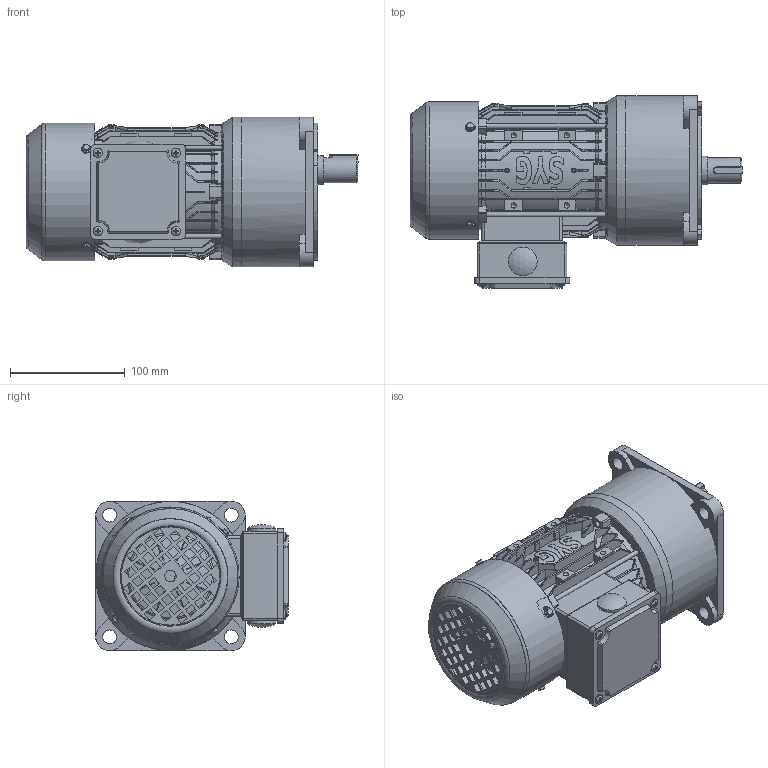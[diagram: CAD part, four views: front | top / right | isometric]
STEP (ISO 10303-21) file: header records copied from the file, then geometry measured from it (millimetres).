
FILE_DESCRIPTION(/* description */ (''),/* implementation_level */ '2;1');
FILE_NAME(/* name */ 'D:\▼ 3D：MG\01. 내부 직접 검토품\MG 088\외형도용 - ASS''Y\SK2\MG0880B - OUTLINE (SK2，VT，0.2kW).stp',/* time_stamp */ '2026-04-08T17:01:38+09:00',/* author */ ('이정훈'),/* organization */ (''),/* preprocessor_version */ 'ST-DEVELOPER v18.1',/* originating_system */ 'Autodesk Inventor 2022',/* authorisation */ '');
FILE_SCHEMA (('AUTOMOTIVE_DESIGN { 1 0 10303 214 3 1 1 }'));
Length unit declared in the file: millimetre
Products named in the file (1): MG0880B - OUTLINE (SK2，VT，0.2kW
)
Bounding box: 288.99 x 167.5 x 130 mm (x, y, z)
Volume: 2585137.2 mm3; surface area: 265290.9 mm2
Topology: 1 solids, 1 shells, 2181 faces, 6437 edges, 4256 vertices
Faces by surface type: plane 1049, bspline 472, cylinder 398, cone 210, torus 38, sphere 14
Full cylindrical faces by diameter (mm): 2 x6, 3.81 x4, 4 x8, 5 x4, 5.2 x4, 5.6 x4, 8 x4, 10 x1, 12 x4, 12.1 x1, 18.5 x3, 21.5 x2, 22 x1, 25 x3, 30 x1, 47 x1, 92 x1, 118 x1, 119.6 x1, 130 x2
Entity records: 113867 total; most frequent: CARTESIAN_POINT 58763, ORIENTED_EDGE 12832, DIRECTION 9981, EDGE_CURVE 6416, VERTEX_POINT 4252, AXIS2_PLACEMENT_3D 3539, LINE 2903, VECTOR 2903
